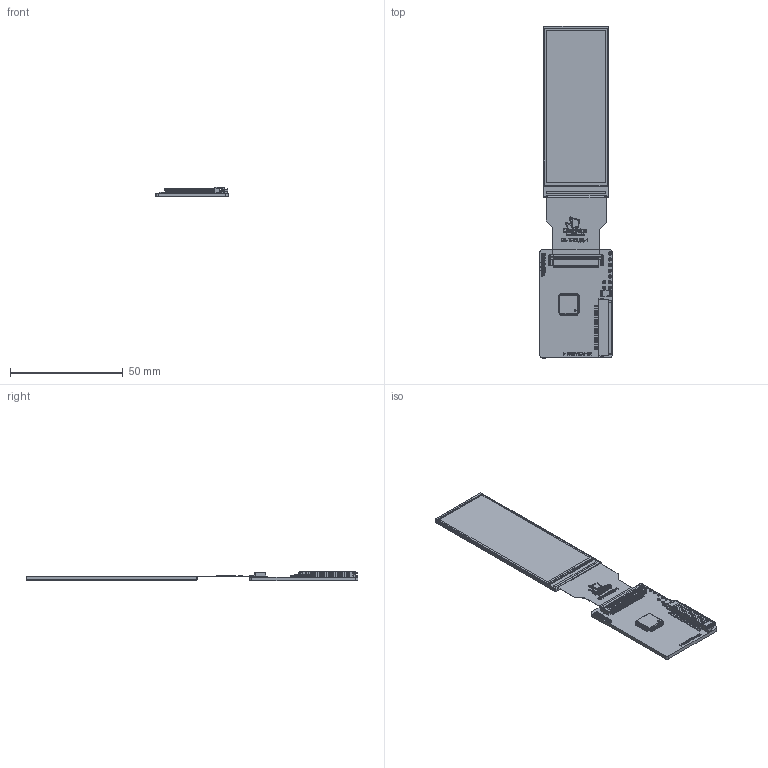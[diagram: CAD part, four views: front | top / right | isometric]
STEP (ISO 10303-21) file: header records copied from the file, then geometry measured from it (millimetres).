
FILE_DESCRIPTION (( 'STEP AP214' ), '1' );
FILE_NAME ('ER-TFT2.86-1-6011.STEP', '2024-08-26T01:09:06', ( '微软用户' ), ( '微软中国' ), 'SwSTEP 2.0', 'SolidWorks 2023', '' );
FILE_SCHEMA (( 'AUTOMOTIVE_DESIGN' ));
Length unit declared in the file: millimetre
Products named in the file (3): ER-TFT2.86-1; ER-TFT2.86-1-6011; ER-6011-Controller Board
Assembly tree (2 placements, depth 2):
  ER-TFT2.86-1-6011
    ER-6011-Controller Board
    ER-TFT2.86-1
Bounding box: 32 x 147.52 x 4.32 mm (x, y, z)
Volume: 6996 mm3; surface area: 13574.8 mm2
Topology: 184 solids, 184 shells, 5181 faces, 15177 edges, 9946 vertices
Faces by surface type: plane 4015, bspline 621, cylinder 545
Entity records: 247869 total; most frequent: CARTESIAN_POINT 61560, ORIENTED_EDGE 30324, DIRECTION 24112, EDGE_CURVE 15162, LINE 12782, VECTOR 12782, VERTEX_POINT 9946, AXIS2_PLACEMENT_3D 5665
